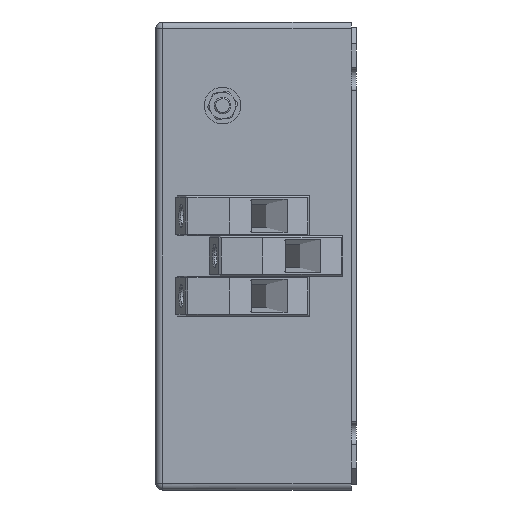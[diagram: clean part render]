
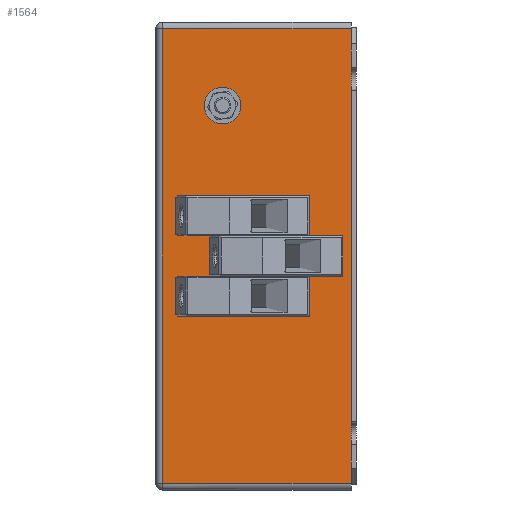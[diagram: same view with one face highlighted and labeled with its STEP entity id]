
A CAD part, left-side view. The second image highlights one B-rep face of the part: STEP entity #1564.
In plain terms, the highlighted planar face has unit normal (-1, 0, 0).
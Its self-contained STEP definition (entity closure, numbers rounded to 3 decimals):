
#147 = AXIS2_PLACEMENT_3D ( 'NONE', #7393, #8729, #3103 ) ;
#197 = AXIS2_PLACEMENT_3D ( 'NONE', #6083, #1126, #3947 ) ;
#258 = EDGE_CURVE ( 'NONE', #7286, #8442, #303, .T. ) ;
#295 = EDGE_LOOP ( 'NONE', ( #6871, #4414 ) ) ;
#303 = CIRCLE ( 'NONE', #8568, 1.6 ) ;
#342 = PLANE ( 'NONE',  #4434 ) ;
#367 = CIRCLE ( 'NONE', #4507, 2.5 ) ;
#384 = ORIENTED_EDGE ( 'NONE', *, *, #3767, .T. ) ;
#431 = CARTESIAN_POINT ( 'NONE',  ( 15., 40., 111. ) ) ;
#590 = CIRCLE ( 'NONE', #3502, 1.6 ) ;
#596 = FACE_BOUND ( 'NONE', #295, .T. ) ;
#604 = VERTEX_POINT ( 'NONE', #4515 ) ;
#677 = CARTESIAN_POINT ( 'NONE',  ( 15., 47., 56.5 ) ) ;
#862 = ORIENTED_EDGE ( 'NONE', *, *, #258, .T. ) ;
#968 = ORIENTED_EDGE ( 'NONE', *, *, #8823, .T. ) ;
#1010 = CARTESIAN_POINT ( 'NONE',  ( 15., 1.5, 136.5 ) ) ;
#1026 = DIRECTION ( 'NONE',  ( 0., 0., -1. ) ) ;
#1046 = VECTOR ( 'NONE', #5203, 1000. ) ;
#1126 = DIRECTION ( 'NONE',  ( 1., 0., 0. ) ) ;
#1146 = LINE ( 'NONE', #5576, #3003 ) ;
#1319 = EDGE_CURVE ( 'NONE', #8305, #1685, #5035, .T. ) ;
#1443 = CARTESIAN_POINT ( 'NONE',  ( 15., 58., 136.5 ) ) ;
#1460 = EDGE_LOOP ( 'NONE', ( #2072, #384, #6718, #4424 ) ) ;
#1490 = EDGE_CURVE ( 'NONE', #8722, #6467, #2357, .T. ) ;
#1564 = ADVANCED_FACE ( 'NONE', ( #6389, #1687, #596, #5932, #7157 ), #342, .F. ) ;
#1571 = CARTESIAN_POINT ( 'NONE',  ( 15., 47., 78.9 ) ) ;
#1685 = VERTEX_POINT ( 'NONE', #1010 ) ;
#1687 = FACE_BOUND ( 'NONE', #8514, .T. ) ;
#1773 = DIRECTION ( 'NONE',  ( 1., 0., 0. ) ) ;
#1906 = DIRECTION ( 'NONE',  ( 1., 0., 0. ) ) ;
#2033 = CARTESIAN_POINT ( 'NONE',  ( 15., 47., 82.1 ) ) ;
#2072 = ORIENTED_EDGE ( 'NONE', *, *, #8244, .T. ) ;
#2129 = CIRCLE ( 'NONE', #147, 2.5 ) ;
#2252 = LINE ( 'NONE', #6022, #8613 ) ;
#2357 = CIRCLE ( 'NONE', #197, 1.6 ) ;
#2485 = EDGE_CURVE ( 'NONE', #8566, #604, #367, .T. ) ;
#2519 = DIRECTION ( 'NONE',  ( 0., 0., -1. ) ) ;
#2567 = DIRECTION ( 'NONE',  ( 0., 0., -1. ) ) ;
#2715 = DIRECTION ( 'NONE',  ( 0., 0., -1. ) ) ;
#2730 = CARTESIAN_POINT ( 'NONE',  ( 15., 1.5, 0.5 ) ) ;
#2909 = LINE ( 'NONE', #8746, #1046 ) ;
#3003 = VECTOR ( 'NONE', #7214, 1000. ) ;
#3042 = ORIENTED_EDGE ( 'NONE', *, *, #4324, .T. ) ;
#3103 = DIRECTION ( 'NONE',  ( 0., 0., -1. ) ) ;
#3164 = EDGE_LOOP ( 'NONE', ( #7412, #862 ) ) ;
#3281 = CARTESIAN_POINT ( 'NONE',  ( 15., 40., 113.5 ) ) ;
#3364 = CIRCLE ( 'NONE', #7778, 1.6 ) ;
#3418 = AXIS2_PLACEMENT_3D ( 'NONE', #6992, #9135, #2715 ) ;
#3502 = AXIS2_PLACEMENT_3D ( 'NONE', #5298, #8961, #1026 ) ;
#3767 = EDGE_CURVE ( 'NONE', #8433, #8305, #2252, .T. ) ;
#3819 = DIRECTION ( 'NONE',  ( 0., 0., 1. ) ) ;
#3852 = EDGE_CURVE ( 'NONE', #1685, #6839, #2909, .T. ) ;
#3947 = DIRECTION ( 'NONE',  ( 0., 0., -1. ) ) ;
#4067 = CARTESIAN_POINT ( 'NONE',  ( 15., 47., 80.5 ) ) ;
#4295 = CARTESIAN_POINT ( 'NONE',  ( 15., 1.5, -1.5 ) ) ;
#4324 = EDGE_CURVE ( 'NONE', #7650, #8023, #3364, .T. ) ;
#4348 = DIRECTION ( 'NONE',  ( 0., 0., -1. ) ) ;
#4414 = ORIENTED_EDGE ( 'NONE', *, *, #6668, .T. ) ;
#4424 = ORIENTED_EDGE ( 'NONE', *, *, #3852, .T. ) ;
#4434 = AXIS2_PLACEMENT_3D ( 'NONE', #4621, #1773, #2519 ) ;
#4507 = AXIS2_PLACEMENT_3D ( 'NONE', #3281, #7683, #2567 ) ;
#4515 = CARTESIAN_POINT ( 'NONE',  ( 15., 40., 116. ) ) ;
#4621 = CARTESIAN_POINT ( 'NONE',  ( 15., 60., -1.5 ) ) ;
#5035 = LINE ( 'NONE', #4295, #8392 ) ;
#5203 = DIRECTION ( 'NONE',  ( 0., 1., 0. ) ) ;
#5298 = CARTESIAN_POINT ( 'NONE',  ( 15., 47., 80.5 ) ) ;
#5576 = CARTESIAN_POINT ( 'NONE',  ( 15., 58., -1.5 ) ) ;
#5596 = DIRECTION ( 'NONE',  ( 0., 0., -1. ) ) ;
#5616 = ORIENTED_EDGE ( 'NONE', *, *, #9086, .T. ) ;
#5633 = CARTESIAN_POINT ( 'NONE',  ( 15., 47., 56.5 ) ) ;
#5653 = DIRECTION ( 'NONE',  ( 1., 0., 0. ) ) ;
#5904 = CARTESIAN_POINT ( 'NONE',  ( 15., 58., 0.5 ) ) ;
#5932 = FACE_BOUND ( 'NONE', #7027, .T. ) ;
#6022 = CARTESIAN_POINT ( 'NONE',  ( 15., 60., 0.5 ) ) ;
#6083 = CARTESIAN_POINT ( 'NONE',  ( 15., 37., 68.5 ) ) ;
#6152 = CIRCLE ( 'NONE', #7039, 1.6 ) ;
#6292 = CARTESIAN_POINT ( 'NONE',  ( 15., 47., 58.1 ) ) ;
#6389 = FACE_BOUND ( 'NONE', #3164, .T. ) ;
#6467 = VERTEX_POINT ( 'NONE', #8981 ) ;
#6668 = EDGE_CURVE ( 'NONE', #6467, #8722, #8091, .T. ) ;
#6718 = ORIENTED_EDGE ( 'NONE', *, *, #1319, .T. ) ;
#6839 = VERTEX_POINT ( 'NONE', #1443 ) ;
#6871 = ORIENTED_EDGE ( 'NONE', *, *, #1490, .T. ) ;
#6916 = DIRECTION ( 'NONE',  ( 0., 0., -1. ) ) ;
#6992 = CARTESIAN_POINT ( 'NONE',  ( 15., 37., 68.5 ) ) ;
#7027 = EDGE_LOOP ( 'NONE', ( #8523, #5616 ) ) ;
#7039 = AXIS2_PLACEMENT_3D ( 'NONE', #5633, #9182, #5596 ) ;
#7157 = FACE_OUTER_BOUND ( 'NONE', #1460, .T. ) ;
#7214 = DIRECTION ( 'NONE',  ( 0., 0., -1. ) ) ;
#7286 = VERTEX_POINT ( 'NONE', #2033 ) ;
#7393 = CARTESIAN_POINT ( 'NONE',  ( 15., 40., 113.5 ) ) ;
#7412 = ORIENTED_EDGE ( 'NONE', *, *, #8581, .T. ) ;
#7650 = VERTEX_POINT ( 'NONE', #6292 ) ;
#7683 = DIRECTION ( 'NONE',  ( 1., 0., 0. ) ) ;
#7778 = AXIS2_PLACEMENT_3D ( 'NONE', #677, #5653, #4348 ) ;
#8023 = VERTEX_POINT ( 'NONE', #8236 ) ;
#8081 = DIRECTION ( 'NONE',  ( 0., -1., 0. ) ) ;
#8091 = CIRCLE ( 'NONE', #3418, 1.6 ) ;
#8236 = CARTESIAN_POINT ( 'NONE',  ( 15., 47., 54.9 ) ) ;
#8244 = EDGE_CURVE ( 'NONE', #6839, #8433, #1146, .T. ) ;
#8287 = CARTESIAN_POINT ( 'NONE',  ( 15., 37., 66.9 ) ) ;
#8305 = VERTEX_POINT ( 'NONE', #2730 ) ;
#8392 = VECTOR ( 'NONE', #3819, 1000. ) ;
#8433 = VERTEX_POINT ( 'NONE', #5904 ) ;
#8442 = VERTEX_POINT ( 'NONE', #1571 ) ;
#8514 = EDGE_LOOP ( 'NONE', ( #968, #3042 ) ) ;
#8523 = ORIENTED_EDGE ( 'NONE', *, *, #2485, .T. ) ;
#8566 = VERTEX_POINT ( 'NONE', #431 ) ;
#8568 = AXIS2_PLACEMENT_3D ( 'NONE', #4067, #1906, #6916 ) ;
#8581 = EDGE_CURVE ( 'NONE', #8442, #7286, #590, .T. ) ;
#8613 = VECTOR ( 'NONE', #8081, 1000. ) ;
#8722 = VERTEX_POINT ( 'NONE', #8287 ) ;
#8729 = DIRECTION ( 'NONE',  ( 1., 0., 0. ) ) ;
#8746 = CARTESIAN_POINT ( 'NONE',  ( 15., 60., 136.5 ) ) ;
#8823 = EDGE_CURVE ( 'NONE', #8023, #7650, #6152, .T. ) ;
#8961 = DIRECTION ( 'NONE',  ( 1., 0., 0. ) ) ;
#8981 = CARTESIAN_POINT ( 'NONE',  ( 15., 37., 70.1 ) ) ;
#9086 = EDGE_CURVE ( 'NONE', #604, #8566, #2129, .T. ) ;
#9135 = DIRECTION ( 'NONE',  ( 1., 0., 0. ) ) ;
#9182 = DIRECTION ( 'NONE',  ( 1., 0., 0. ) ) ;
